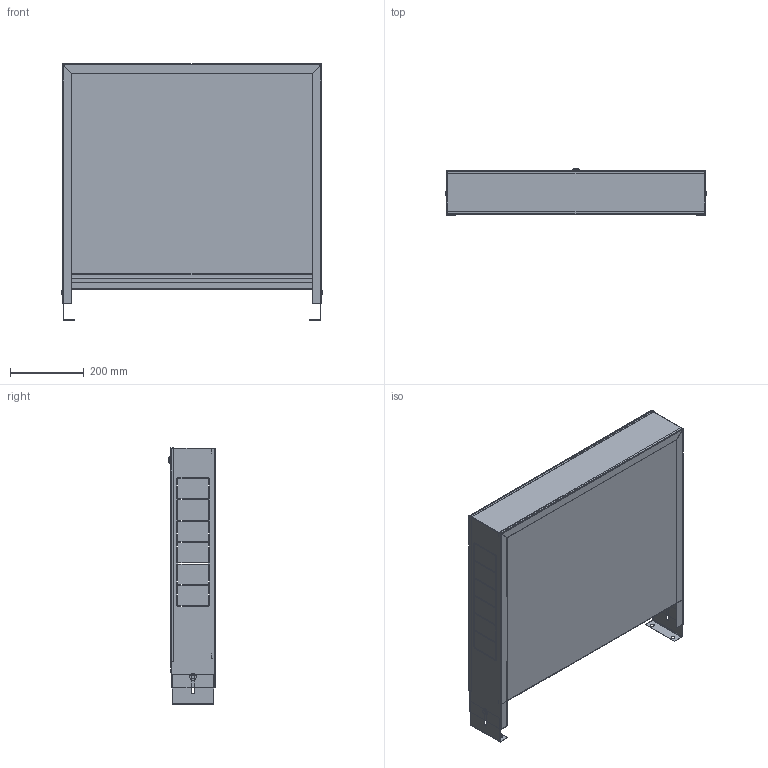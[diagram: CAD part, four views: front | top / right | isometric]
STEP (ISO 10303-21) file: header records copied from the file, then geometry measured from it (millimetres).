
FILE_DESCRIPTION(('TFLEX Exchange Step'),'2;1');
FILE_NAME('Manifold cabinet VTc.541.0.03 Valtec.stp', '2023-10-11T13:47:31+03:00',('denis'),('Unknown organisation'),'TFLEX Exchange 2023.0','T-FLEX CAD','Unknown authorisation');
FILE_SCHEMA( ('AUTOMOTIVE_DESIGN { 1 0 10303 214 1 1 1 1 }') );
Length unit declared in the file: millimetre
Products named in the file (1): Nodes
Bounding box: 709 x 124.9 x 695 mm (x, y, z)
Volume: 989605.2 mm3; surface area: 2393184 mm2
Topology: 9 solids, 10 shells, 504 faces, 1335 edges, 859 vertices
Faces by surface type: plane 372, cylinder 87, cone 31, bspline 12, torus 2
Full cylindrical faces by diameter (mm): 6 x4, 6.4 x2, 7 x2, 10 x5, 12 x1, 16 x1, 18 x2, 20 x2
Entity records: 18079 total; most frequent: CARTESIAN_POINT 5474, ORIENTED_EDGE 2670, DIRECTION 2391, EDGE_CURVE 1335, VECTOR 1009, LINE 1009, VERTEX_POINT 859, AXIS2_PLACEMENT_3D 691
